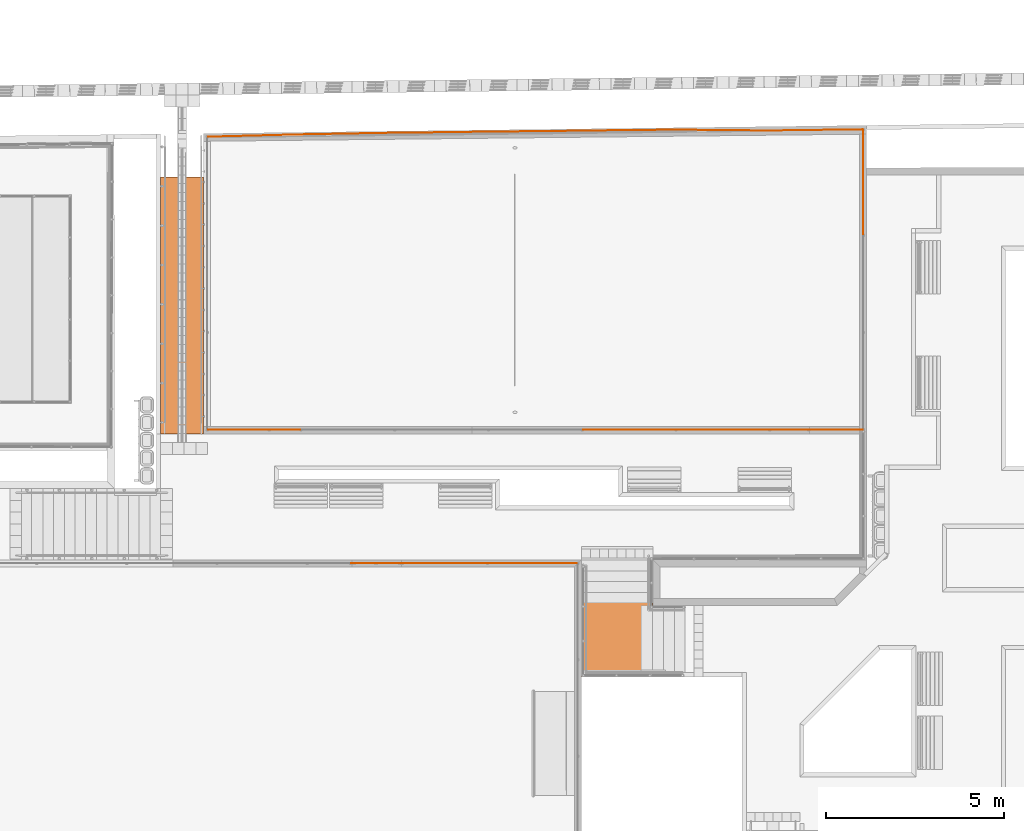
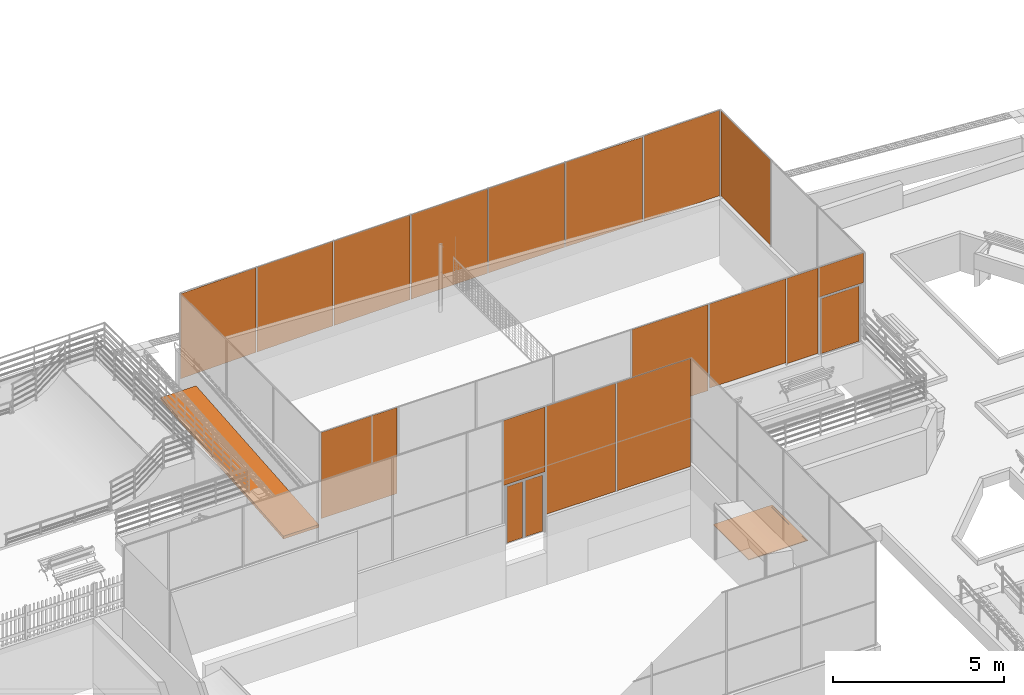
# One storey, part 213 of 237: 21 proxies, 1 element without a shape of its own.
"""IFC2X3 building model written with IfcOpenShell, lengths in millimetres."""

from ifc_helpers import new_model, entity, si_unit, converted_unit, derived_unit, money_unit, direction, frame, origin_with_axes, place, context, subcontext, project, spatial, open_shell, faceted_brep, surface_model, material, type_object, element, aggregate, save


model = new_model("IFC2X3")

# Units and contexts
model_context = context("Model", 3, precision=0.01, world=origin_with_axes(), true_north=direction((0.0, 1.0)))
body_context = subcontext(model_context, "Body", "Model", "MODEL_VIEW")
ifc_project = project(units=[si_unit("LENGTHUNIT", "METRE", prefix="MILLI"), si_unit("AREAUNIT", "SQUARE_METRE"), si_unit("VOLUMEUNIT", "CUBIC_METRE"), converted_unit("PLANEANGLEUNIT", "DEGREE", entity("IfcPlaneAngleMeasure", 0.0174532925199), si_unit("PLANEANGLEUNIT", "RADIAN"), dimensions=[0, 0, 0, 0, 0, 0, 0]), money_unit("USD"), converted_unit("TIMEUNIT", "Year", entity("IfcTimeMeasure", 31556926.0), si_unit("TIMEUNIT", "SECOND"), dimensions=[0, 0, 1, 0, 0, 0, 0]), si_unit("MASSUNIT", "GRAM", prefix="KILO"), si_unit("THERMODYNAMICTEMPERATUREUNIT", "DEGREE_CELSIUS"), si_unit("LUMINOUSINTENSITYUNIT", "LUMEN"), si_unit("ENERGYUNIT", "JOULE", prefix="MEGA"), derived_unit("THERMALCONDUCTANCEUNIT", [(si_unit("POWERUNIT", "WATT"), 1), (si_unit("LENGTHUNIT", "METRE"), -1), (si_unit("THERMODYNAMICTEMPERATUREUNIT", "KELVIN"), -1)]), derived_unit("SPECIFICHEATCAPACITYUNIT", [(si_unit("ENERGYUNIT", "JOULE"), 1), (si_unit("MASSUNIT", "GRAM", prefix="KILO"), -1), (si_unit("THERMODYNAMICTEMPERATUREUNIT", "KELVIN"), -1)]), derived_unit("MASSDENSITYUNIT", [(si_unit("MASSUNIT", "GRAM", prefix="KILO"), 1), (si_unit("VOLUMEUNIT", "CUBIC_METRE"), -1)])], contexts=[model_context])

# Site, building, storey
site_placement = place(None, origin_with_axes())
site = spatial("IfcSite", under=ifc_project, at=site_placement, Name="Local", CompositionType="ELEMENT")
building_placement = place(site_placement, origin_with_axes())
building = spatial("IfcBuilding", under=site, at=building_placement, Name="Construção", CompositionType="ELEMENT")
storey_placement = place(building_placement, origin_with_axes())
storey = spatial("IfcBuildingStorey", under=building, at=storey_placement, Name="Pavimento Térreo", CompositionType="ELEMENT", Elevation=0.0)

# Proxies
building_element_proxy_type_1 = type_object("IfcBuildingElementProxyType", Name="Tela metalica1", PredefinedType="NOTDEFINED")
proxy_1_placement = place(storey_placement, frame((81554.747014, 35128.1311186, -3388.30219833), z_axis=(0.0, 0.0, 1.0), x_axis=(0.974874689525, 0.222753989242, 0.0)))
element("IfcBuildingElementProxy", 1, at=proxy_1_placement, inside=storey, type_object=building_element_proxy_type_1, Name="Objeto-0044", context=body_context, shape_type="SurfaceModel", body=[
    surface_model("IfcShellBasedSurfaceModel", [(2525.20660233, 0.0, 3036.49073508), (0.0, 602.143615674, 3036.49073508), (0.0, 602.143615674, 0.0), (2525.20660233, 0.0, 0.0)], [open_shell([[[0, 1, 2, 3]]])]),
])
proxy_2_placement = place(storey_placement, frame((73669.1689656, 35096.8253092, -3388.30219833), z_axis=(0.0, 0.0, 1.0), x_axis=(0.974874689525, 0.222753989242, 0.0)))
element("IfcBuildingElementProxy", 2, at=proxy_2_placement, inside=storey, type_object=building_element_proxy_type_1, Name="Objeto-0044", context=body_context, shape_type="SurfaceModel", body=[
    surface_model("IfcShellBasedSurfaceModel", [(2524.42913179, 0.0, 3036.49073508), (0.0, 542.672369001, 3036.49073508), (0.0, 542.672369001, 0.0), (2524.42913179, 0.0, 0.0)], [open_shell([[[0, 1, 2, 3]]])]),
])
proxy_3_placement = place(storey_placement, frame((81565.6856493, 26739.0884267, -3339.48681258), z_axis=(0.0, 0.0, 1.0), x_axis=(0.974874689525, 0.222753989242, 0.0)))
element("IfcBuildingElementProxy", 3, at=proxy_3_placement, inside=storey, type_object=building_element_proxy_type_1, Name="Objeto-0044", context=body_context, shape_type="SurfaceModel", body=[
    surface_model("IfcShellBasedSurfaceModel", [(2513.98604708, 0.0, 3012.08304221), (0.0, 574.433234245, 3012.08304221), (0.0, 574.433234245, 0.0), (2513.98604708, 0.0, 0.0)], [open_shell([[[0, 1, 2, 3]]])]),
])
proxy_4_placement = place(storey_placement, frame((76290.5750734, 35121.0563801, -3388.30219833), z_axis=(0.0, 0.0, 1.0), x_axis=(0.974874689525, 0.222753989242, 0.0)))
element("IfcBuildingElementProxy", 4, at=proxy_4_placement, inside=storey, type_object=building_element_proxy_type_1, Name="Objeto-0044", context=body_context, shape_type="SurfaceModel", body=[
    surface_model("IfcShellBasedSurfaceModel", [(2535.9731921, 0.0, 3036.49073508), (0.0, 551.558528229, 3036.49073508), (0.0, 551.558528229, 0.0), (2535.9731921, 0.0, 0.0)], [open_shell([[[0, 1, 2, 3]]])]),
])
proxy_5_placement = place(storey_placement, frame((85259.2354508, 27020.0618659, -3435.52065728), z_axis=(0.0, 0.0, 1.0), x_axis=(0.974874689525, 0.222753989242, 0.0)))
element("IfcBuildingElementProxy", 5, at=proxy_5_placement, inside=storey, type_object=building_element_proxy_type_1, Name="Objeto-0044", context=body_context, shape_type="SurfaceModel", body=[
    surface_model("IfcShellBasedSurfaceModel", [(1266.26966207, 0.0, 1977.67833162), (0.0, 289.336282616, 1977.67833162), (0.0, 289.336282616, 0.0), (1266.26966207, 0.0, 0.0)], [open_shell([[[0, 1, 2, 3]]])]),
])
proxy_6_placement = place(storey_placement, frame((68407.7045696, 35019.1231174, -3388.30219833), z_axis=(0.0, 0.0, 1.0), x_axis=(0.974874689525, 0.222753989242, 0.0)))
element("IfcBuildingElementProxy", 6, at=proxy_6_placement, inside=storey, type_object=building_element_proxy_type_1, Name="Objeto-0044", context=body_context, shape_type="SurfaceModel", body=[
    surface_model("IfcShellBasedSurfaceModel", [(2528.43690103, 0.0, 3036.49073508), (0.0, 511.18960029, 3036.49073508), (0.0, 511.18960029, 0.0), (2528.43690103, 0.0, 0.0)], [open_shell([[[0, 1, 2, 3]]])]),
])
proxy_7_placement = place(storey_placement, frame((73769.0848549, 23474.4010412, -2895.5646423), z_axis=(0.0, 0.0, 1.0), x_axis=(0.999352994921, 0.0359665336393, 0.0)))
element("IfcBuildingElementProxy", 7, at=proxy_7_placement, inside=storey, type_object=building_element_proxy_type_1, Name="Objeto-0044", context=body_context, shape_type="SurfaceModel", body=[
    surface_model("IfcShellBasedSurfaceModel", [(2336.27916238, 0.0, 3871.98687919), (0.0, 84.0423930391, 3871.98687919), (0.0, 84.0423930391, 0.0), (2336.27916238, 0.0, 0.0)], [open_shell([[[0, 1, 2, 3]]])]),
])
proxy_8_placement = place(storey_placement, frame((87302.5757607, 32931.8305622, -3388.30219833), z_axis=(0.0, 0.0, 1.0), x_axis=(-0.222753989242, 0.974874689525, 0.0)))
element("IfcBuildingElementProxy", 8, at=proxy_8_placement, inside=storey, type_object=building_element_proxy_type_1, Name="Objeto-0044", context=body_context, shape_type="SurfaceModel", body=[
    surface_model("IfcShellBasedSurfaceModel", [(2838.5129479, 0.0, 3061.09168656), (0.0, 648.586007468, 3061.09168656), (0.0, 648.586007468, 0.0), (2838.5129479, 0.0, 0.0)], [open_shell([[[0, 1, 2, 3]]])]),
])
proxy_9_placement = place(storey_placement, frame((71036.018567, 35065.5395035, -3388.30219833), z_axis=(0.0, 0.0, 1.0), x_axis=(0.974874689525, 0.222753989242, 0.0)))
element("IfcBuildingElementProxy", 9, at=proxy_9_placement, inside=storey, type_object=building_element_proxy_type_1, Name="Objeto-0044", context=body_context, shape_type="SurfaceModel", body=[
    surface_model("IfcShellBasedSurfaceModel", [(2528.91354096, 0.0, 3036.49073508), (0.0, 530.540336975, 3036.49073508), (0.0, 530.540336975, 0.0), (2528.91354096, 0.0, 0.0)], [open_shell([[[0, 1, 2, 3]]])]),
])
proxy_10_placement = place(storey_placement, frame((78936.9069877, 26739.0884267, -3412.83943147), z_axis=(0.0, 0.0, 1.0), x_axis=(0.974874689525, 0.222753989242, 0.0)))
element("IfcBuildingElementProxy", 10, at=proxy_10_placement, inside=storey, type_object=building_element_proxy_type_1, Name="Objeto-0044", context=body_context, shape_type="SurfaceModel", body=[
    surface_model("IfcShellBasedSurfaceModel", [(2513.98604708, 0.0, 3085.4356611), (0.0, 574.433234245, 3085.4356611), (0.0, 574.433234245, 0.0), (2513.98604708, 0.0, 0.0)], [open_shell([[[0, 1, 2, 3]]])]),
])
proxy_11_placement = place(storey_placement, frame((84187.4175025, 35162.0998202, -3388.30219833), z_axis=(0.0, 0.0, 1.0), x_axis=(0.974874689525, 0.222753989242, 0.0)))
element("IfcBuildingElementProxy", 11, at=proxy_11_placement, inside=storey, type_object=building_element_proxy_type_1, Name="Objeto-0044", context=body_context, shape_type="SurfaceModel", body=[
    surface_model("IfcShellBasedSurfaceModel", [(2521.21447191, 0.0, 3061.09168656), (0.0, 542.798297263, 3061.09168656), (0.0, 542.798297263, 0.0), (2521.21447191, 0.0, 0.0)], [open_shell([[[0, 1, 2, 3]]])]),
])
proxy_12_placement = place(storey_placement, frame((72316.5989875, 23473.6618715, -1360.55389398), z_axis=(0.0, 0.0, 1.0), x_axis=(0.998128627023, 0.061149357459, 0.0)))
element("IfcBuildingElementProxy", 12, at=proxy_12_placement, inside=storey, type_object=building_element_proxy_type_1, Name="Objeto-0044", context=body_context, shape_type="SurfaceModel", body=[
    surface_model("IfcShellBasedSurfaceModel", [(1400.0, 0.0, 2323.37698352), (0.0, 84.0423930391, 2323.37698352), (0.0, 84.0423930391, 0.0), (1400.0, 0.0, 0.0)], [open_shell([[[0, 1, 2, 3]]])]),
])
proxy_13_placement = place(storey_placement, frame((72442.3766682, 23474.4026112, -3450.55389818), z_axis=(0.0, 0.0, 1.0), x_axis=(0.986516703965, 0.163660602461, 0.0)))
element("IfcBuildingElementProxy", 13, at=proxy_13_placement, inside=storey, type_object=building_element_proxy_type_1, Name="Objeto-0044", context=body_context, shape_type="SurfaceModel", body=[
    surface_model("IfcShellBasedSurfaceModel", [(520.0, 0.0, 2012.20642202), (0.0, 84.0423930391, 2012.20642202), (0.0, 84.0423930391, 0.0), (520.0, 0.0, 0.0)], [open_shell([[[0, 1, 2, 3]]])]),
])
proxy_14_placement = place(storey_placement, frame((73054.9495612, 23478.6613052, -3450.58155717), z_axis=(0.0, 0.0, 1.0), x_axis=(0.991336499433, 0.131346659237, 0.0)))
element("IfcBuildingElementProxy", 14, at=proxy_14_placement, inside=storey, type_object=building_element_proxy_type_1, Name="Objeto-0044", context=body_context, shape_type="SurfaceModel", body=[
    surface_model("IfcShellBasedSurfaceModel", [(580.0, 0.0, 2012.20642202), (0.0, 84.0423930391, 2012.20642202), (0.0, 84.0423930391, 0.0), (580.0, 0.0, 0.0)], [open_shell([[[0, 1, 2, 3]]])]),
])
proxy_15_placement = place(storey_placement, frame((68422.4524205, 26739.2392515, -3412.65129315), z_axis=(0.0, 0.0, 1.0), x_axis=(0.974874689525, 0.222753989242, 0.0)))
element("IfcBuildingElementProxy", 15, at=proxy_15_placement, inside=storey, type_object=building_element_proxy_type_1, Name="Objeto-0044", context=body_context, shape_type="SurfaceModel", body=[
    surface_model("IfcShellBasedSurfaceModel", [(2513.30895581, 0.0, 3085.24752277), (0.0, 577.396499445, 3085.24752277), (0.0, 577.396499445, 0.0), (2513.30895581, 0.0, 0.0)], [open_shell([[[0, 1, 2, 3]]])]),
])
proxy_16_placement = place(storey_placement, frame((78934.3344651, 35154.4257296, -3388.30219833), z_axis=(0.0, 0.0, 1.0), x_axis=(0.974874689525, 0.222753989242, 0.0)))
element("IfcBuildingElementProxy", 16, at=proxy_16_placement, inside=storey, type_object=building_element_proxy_type_1, Name="Objeto-0044", context=body_context, shape_type="SurfaceModel", body=[
    surface_model("IfcShellBasedSurfaceModel", [(2516.62487098, 0.0, 3036.49073508), (0.0, 548.35077797, 3036.49073508), (0.0, 548.35077797, 0.0), (2516.62487098, 0.0, 0.0)], [open_shell([[[0, 1, 2, 3]]])]),
])
proxy_17_placement = place(storey_placement, frame((84118.3151082, 27075.3922652, -3388.30219833), z_axis=(0.0, 0.0, 1.0), x_axis=(0.974874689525, 0.222753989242, 0.0)))
element("IfcBuildingElementProxy", 17, at=proxy_17_placement, inside=storey, type_object=building_element_proxy_type_1, Name="Objeto-0044", context=body_context, shape_type="SurfaceModel", body=[
    surface_model("IfcShellBasedSurfaceModel", [(1017.87725636, 0.0, 3061.09168656), (0.0, 232.579860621, 3061.09168656), (0.0, 232.579860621, 0.0), (1017.87725636, 0.0, 0.0)], [open_shell([[[0, 1, 2, 3]]])]),
])
proxy_18_placement = place(storey_placement, frame((76277.6961842, 23016.4321067, -2895.5646423), z_axis=(0.0, 0.0, 1.0), x_axis=(0.974874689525, 0.222753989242, 0.0)))
element("IfcBuildingElementProxy", 18, at=proxy_18_placement, inside=storey, type_object=building_element_proxy_type_1, Name="Objeto-0044", context=body_context, shape_type="SurfaceModel", body=[
    surface_model("IfcShellBasedSurfaceModel", [(2420.289592, 0.0, 3871.98687919), (0.0, 555.966480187, 3871.98687919), (0.0, 555.966480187, 0.0), (2420.289592, 0.0, 0.0)], [open_shell([[[0, 1, 2, 3]]])]),
])
proxy_19_placement = place(storey_placement, frame((85204.087499, 26972.8781554, -1392.42071121), z_axis=(0.0, 0.0, 1.0), x_axis=(0.974874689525, 0.222753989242, 0.0)))
element("IfcBuildingElementProxy", 19, at=proxy_19_placement, inside=storey, type_object=building_element_proxy_type_1, Name="Objeto-0044", context=body_context, shape_type="SurfaceModel", body=[
    surface_model("IfcShellBasedSurfaceModel", [(1478.08948485, 0.0, 1065.21019944), (0.0, 337.736052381, 1065.21019944), (0.0, 337.736052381, 0.0), (1478.08948485, 0.0, 0.0)], [open_shell([[[0, 1, 2, 3]]])]),
])
ifc_material_1 = material(Name="Concreto - Estrutural")
building_element_proxy_type_2 = type_object("IfcBuildingElementProxyType", Name="Rampa Direta 25", PredefinedType="NOTDEFINED")
proxy_20_placement = place(storey_placement, frame((67562.4929832, 27192.3083888, -3507.05726823), z_axis=(0.0, 0.0, 1.0), x_axis=(0.0, 1.0, 0.0)))
element("IfcBuildingElementProxy", 20, at=proxy_20_placement, inside=storey, type_object=building_element_proxy_type_2, material=ifc_material_1, Name="Objeto-0088", context=body_context, shape_type="Brep", body=[
    faceted_brep([(0.0, 599.987210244, -100.346344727), (0.0, 599.987210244, 0.0), (7200.0, 599.987210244, 599.76), (7200.0, 599.987210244, 499.413655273), (0.0, -599.987210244, -100.346344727), (0.0, -599.987210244, 0.0), (7200.0, -599.987210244, 599.76), (7200.0, -599.987210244, 499.413655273)], [[[0, 1, 2, 3]], [[0, 4, 5, 1]], [[1, 5, 6, 2]], [[3, 2, 6, 7]], [[4, 0, 3, 7]], [[5, 4, 7, 6]]]),
])

# Stair, proxy
stair_placement = place(storey_placement, frame((81668.9594957, 22372.4191106, -5007.05726823), z_axis=(0.0, 0.0, 1.0), x_axis=(1.0, 0.0, 0.0)))
stair = element("IfcStair", 21, at=stair_placement, inside=storey, Name="Escada - 008", ShapeType="NOTDEFINED")
ifc_material_2 = material(Name="Concreto Armado - Pré-fabricado")
building_element_proxy_type_3 = type_object("IfcBuildingElementProxyType", Name="IfcBuildingElementProxy", PredefinedType="NOTDEFINED")
proxy_21_placement = place(stair_placement, frame((-900.0, -1000.0, 666.666666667), z_axis=(0.0, 0.0, 1.0), x_axis=(0.0, 1.0, 0.0)))
proxy_21 = element("IfcBuildingElementProxy", 22, at=proxy_21_placement, type_object=building_element_proxy_type_3, material=ifc_material_2, Name="TREAD-003", context=body_context, shape_type="Brep", body=[
    faceted_brep([(1000.00001544, 79.9999858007, 0.0), (-999.999998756, 80.0000168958, 0.0), (-999.999999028, 62.5000168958, 0.0), (1000.00001517, 62.4999858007, 0.0), (1000.00001494, 47.4999858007, 0.0), (-999.999999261, 47.5000168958, 0.0), (-999.999999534, 30.0000168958, 0.0), (1000.00001467, 29.9999858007, 0.0), (1000.00001443, 14.9999858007, 0.0), (-999.999999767, 15.0000168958, 0.0), (-1000.0, 1.68958129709e-05, 0.0), (1000.0000142, -1.41992817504e-05, 0.0), (1052.80402482, -1.41992817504e-05, 0.0), (1086.75448874, -1.41992817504e-05, 0.0), (1086.75448874, 2000.0, 0.0), (1052.80402482, 2000.0, 0.0), (-1000.0, 2000.0, 0.0), (-999.999998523, 95.0000168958, 0.0), (1000.00001568, 94.9999858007, 0.0), (1000.00001544, 79.9999858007, -5.0), (-999.999998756, 80.0000168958, -5.0), (-999.999998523, 95.0000168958, -5.0), (-1000.0, 2000.0, -25.0), (-1000.0, 1.68958129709e-05, -25.0), (-999.999999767, 15.0000168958, -5.0), (-999.999999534, 30.0000168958, -5.0), (-999.999999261, 47.5000168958, -5.0), (-999.999999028, 62.5000168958, -5.0), (1000.00001517, 62.4999858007, -5.0), (1000.00001494, 47.4999858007, -5.0), (1000.00001467, 29.9999858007, -5.0), (1000.00001443, 14.9999858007, -5.0), (1000.0000142, -1.41992817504e-05, -25.0), (1052.80402482, -1.41992817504e-05, -25.0), (1086.75448874, -1.41992817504e-05, -25.0), (1086.75448874, 2000.0, -25.0), (1052.80402482, 2000.0, -25.0), (1000.00001568, 94.9999858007, -5.0)], [[[0, 1, 2, 3, 4, 5, 6, 7, 8, 9, 10, 11, 12, 13, 14, 15, 16, 17, 18]], [[1, 0, 19, 20]], [[21, 17, 16, 22, 23, 10, 9, 24, 25, 6, 5, 26, 27, 2, 1, 20]], [[2, 27, 28, 3]], [[3, 28, 29, 4]], [[4, 29, 26, 5]], [[25, 30, 7, 6]], [[30, 31, 8, 7]], [[31, 24, 9, 8]], [[10, 23, 32, 11]], [[11, 32, 33, 12]], [[12, 33, 34, 13]], [[13, 34, 35, 14]], [[14, 35, 36, 15]], [[15, 36, 22, 16]], [[18, 17, 21, 37]], [[0, 18, 37, 19]], [[21, 20, 19, 37]], [[32, 23, 22, 36, 35, 34, 33]], [[31, 30, 25, 24]], [[26, 29, 28, 27]]]),
])
aggregate(stair, [proxy_21])

save(model, "model.ifc")
